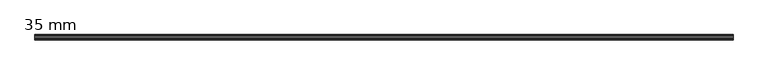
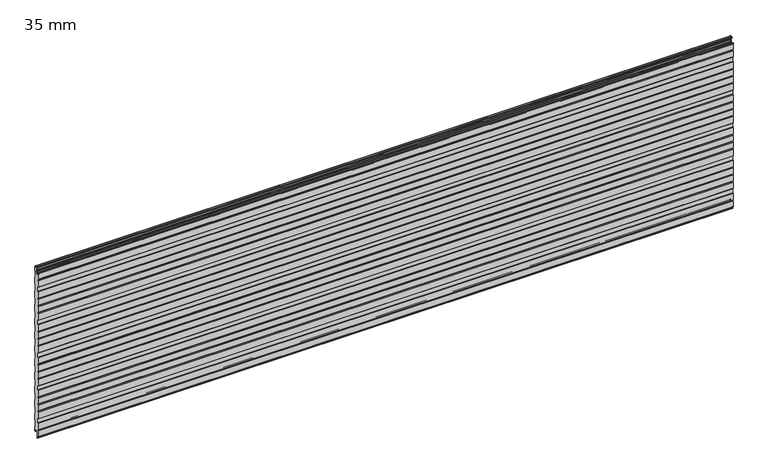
"""IFC4 building model written with IfcOpenShell, lengths in millimetres: plate geometry, HIANSA PANEL - H20.F02.002-PANELES DE FACHADA HORIZONTAL - PANEL PERFILADO - Panel de Muro Cortina : 35 mm."""

from ifc_helpers import new_model, si_unit, frame, origin, place, context, project, spatial, polyline, circle_curve, source, transform, mapped, element, save
from ifc_brep_helpers import plane_surface, cylinder_surface, revolved_surface, advanced_brep


def plate_35_mm_6cc62642(model_context):
    return source(origin(), model_context, "Body", "AdvancedBrep", [
        advanced_brep(
        [(-2200.0, -33.8752798, 1088.9050598), (-2200.0, -32.5170803, 1089.9655099), (-2200.0, -29.8776596, 1089.9655099), (-2200.0, -29.8776596, 1080.8), (-2200.0, -28.3776596, 1079.3), (-2200.0, -24.1276596, 1079.3), (-2200.0, -22.6276596, 1080.8), (-2200.0, -22.6276596, 1082.4013031), (-2200.0, -21.9880243, 1083.6300312), (-2200.0, -15.9305067, 1087.8715506), (-2200.0, -15.0776596, 1089.5098547), (-2200.0, -15.0776596, 1098.6062275), (-2200.0, -14.3889845, 1099.7990478), (-2200.0, -14.3889845, 1100.7990478), (-2200.0, -15.0776596, 1101.9918681), (-2200.0, -15.0776596, 1111.0896684), (-2200.0, -15.9305067, 1112.7279725), (-2200.0, -21.9880243, 1116.969492), (-2200.0, -22.6276596, 1118.19822), (-2200.0, -22.6276596, 1121.5805697), (-2200.0, -21.1276596, 1123.0805697), (-2200.0, -7.7494039, 1123.0810465), (-2200.0, -6.7486887, 1122.0803313), (-2200.0, -6.7486887, 1115.9337883), (-2200.0, -4.7472517, 1113.9323514), (-2200.0, -1.4941037, 1113.9323514), (-2200.0, -0.5, 1112.9382477), (-2200.0, -0.5, 1088.0627766), (-2200.0, -1.5005169, 1085.0504228), (-2200.0, -1.5005169, 1044.8881451), (-2200.0, -0.5, 1041.8865945), (-2200.0, -0.5, 997.0519734), (-2200.0, -1.5005169, 994.0504228), (-2200.0, -1.5005169, 953.8881451), (-2200.0, -0.5, 950.8865945), (-2200.0, -0.5, 906.0519734), (-2200.0, -1.5005169, 903.0504228), (-2200.0, -1.5005169, 862.8881451), (-2200.0, -0.5, 859.8865945), (-2200.0, -0.5, 815.0519734), (-2200.0, -1.5005169, 812.0504228), (-2200.0, -1.5005169, 771.8881451), (-2200.0, -0.5, 768.8865945), (-2200.0, -0.5, 724.0519734), (-2200.0, -1.5005169, 721.0504228), (-2200.0, -1.5005169, 680.8881451), (-2200.0, -0.5, 677.8865945), (-2200.0, -0.5, 633.0519734), (-2200.0, -1.5005169, 630.0504228), (-2200.0, -1.5005169, 589.8881451), (-2200.0, -0.5, 586.8865945), (-2200.0, -0.5, 542.0519734), (-2200.0, -1.5005169, 539.0504228), (-2200.0, -1.5005169, 498.8881451), (-2200.0, -0.5, 495.8865945), (-2200.0, -0.5, 451.0519734), (-2200.0, -1.5005169, 448.0504228), (-2200.0, -1.5005169, 407.8881451), (-2200.0, -0.5, 404.8865945), (-2200.0, -0.5, 360.0519734), (-2200.0, -1.5005169, 357.0504228), (-2200.0, -1.5005169, 316.8881451), (-2200.0, -0.5, 313.8865945), (-2200.0, -0.5, 269.0519734), (-2200.0, -1.5005169, 266.0504228), (-2200.0, -1.5005169, 225.8881451), (-2200.0, -0.5, 222.8865945), (-2200.0, -0.5, 178.0519734), (-2200.0, -1.5005169, 175.0504228), (-2200.0, -1.5005169, 134.8881451), (-2200.0, -0.5, 131.8865945), (-2200.0, -0.5, 87.0519734), (-2200.0, -1.5005169, 84.0504228), (-2200.0, -1.5005169, 43.8881451), (-2200.0, -0.5, 40.8962672), (-2200.0, -0.5, 15.9680961), (-2200.0, -1.5000258, 14.9680403), (-2200.0, -4.4999967, 14.9677262), (-2200.0, -5.5000043, 15.9677319), (-2200.0, -5.5004096, 23.5818123), (-2200.0, -7.5396439, 25.6210465), (-2200.0, -21.3470846, 25.6210465), (-2200.0, -23.8839497, 23.0841814), (-2200.0, -23.8839497, -19.2), (-2200.0, -28.6276596, -19.2), (-2200.0, -28.6276596, -10.5344901), (-2200.0, -30.1276596, -9.0344901), (-2200.0, -32.5178943, -9.0344901), (-2200.0, -33.8750825, -7.9748295), (-2200.0, -34.5, -5.4751593), (-2200.0, -34.5, 33.6239573), (-2200.0, -33.4846118, 37.6855101), (-2200.0, -34.5, 41.7470629), (-2200.0, -34.5, 84.8265935), (-2200.0, -33.5, 87.8265935), (-2200.0, -33.5, 113.1008712), (-2200.0, -34.5, 116.1008712), (-2200.0, -34.5, 159.1804017), (-2200.0, -33.4846118, 163.2419545), (-2200.0, -34.5, 167.3035073), (-2200.0, -34.5, 206.4026239), (-2200.0, -33.4846118, 210.4641767), (-2200.0, -34.5, 214.5257295), (-2200.0, -34.5, 253.6248461), (-2200.0, -33.4846118, 257.6863989), (-2200.0, -34.5, 261.7479517), (-2200.0, -34.5, 304.8274823), (-2200.0, -33.5, 307.8274823), (-2200.0, -33.5, 333.10176), (-2200.0, -34.5, 336.10176), (-2200.0, -34.5, 379.1812905), (-2200.0, -33.4846118, 383.2428433), (-2200.0, -34.5, 387.3043961), (-2200.0, -34.5, 426.4035127), (-2200.0, -33.4846118, 430.4650655), (-2200.0, -34.5, 434.5266183), (-2200.0, -34.5, 473.6257349), (-2200.0, -33.4846118, 477.6872877), (-2200.0, -34.5, 481.7488405), (-2200.0, -34.5, 524.8283711), (-2200.0, -33.5, 527.8283711), (-2200.0, -33.5, 553.1026488), (-2200.0, -34.5, 556.1026488), (-2200.0, -34.5, 599.1821793), (-2200.0, -33.4846118, 603.2437321), (-2200.0, -34.5, 607.3052849), (-2200.0, -34.5, 646.4044015), (-2200.0, -33.4846118, 650.4659543), (-2200.0, -34.5, 654.5275071), (-2200.0, -34.5, 693.6266237), (-2200.0, -33.4846118, 697.6881765), (-2200.0, -34.5, 701.7497293), (-2200.0, -34.5, 744.8292599), (-2200.0, -33.5, 747.8292599), (-2200.0, -33.5, 773.1035376), (-2200.0, -34.5, 776.1035376), (-2200.0, -34.5, 819.1830681), (-2200.0, -33.4846118, 823.2446209), (-2200.0, -34.5, 827.3061737), (-2200.0, -34.5, 866.4052903), (-2200.0, -33.4846118, 870.4668431), (-2200.0, -34.5, 874.5283959), (-2200.0, -34.5, 913.6275125), (-2200.0, -33.4846118, 917.6890653), (-2200.0, -34.5, 921.7506181), (-2200.0, -34.5, 964.8301487), (-2200.0, -33.5, 967.8301487), (-2200.0, -33.5, 993.1044264), (-2200.0, -34.5, 996.1044264), (-2200.0, -34.5, 1039.1839569), (-2200.0, -33.4846118, 1043.2455097), (-2200.0, -34.5, 1047.3070625), (-2200.0, -34.5, 1086.4061791), (2200.0, -33.8752798, 1088.9050598), (2200.0, -34.5, 1086.4061791), (2200.0, -34.5, 1047.3070625), (2200.0, -33.4846118, 1043.2455097), (2200.0, -34.5, 1039.1839569), (2200.0, -34.5, 996.1044264), (2200.0, -33.5, 993.1044264), (2200.0, -33.5, 967.8301487), (2200.0, -34.5, 964.8301487), (2200.0, -34.5, 921.7506181), (2200.0, -33.4846118, 917.6890653), (2200.0, -34.5, 913.6275125), (2200.0, -34.5, 874.5283959), (2200.0, -33.4846118, 870.4668431), (2200.0, -34.5, 866.4052903), (2200.0, -34.5, 827.3061737), (2200.0, -33.4846118, 823.2446209), (2200.0, -34.5, 819.1830681), (2200.0, -34.5, 776.1035376), (2200.0, -33.5, 773.1035376), (2200.0, -33.5, 747.8292599), (2200.0, -34.5, 744.8292599), (2200.0, -34.5, 701.7497293), (2200.0, -33.4846118, 697.6881765), (2200.0, -34.5, 693.6266237), (2200.0, -34.5, 654.5275071), (2200.0, -33.4846118, 650.4659543), (2200.0, -34.5, 646.4044015), (2200.0, -34.5, 607.3052849), (2200.0, -33.4846118, 603.2437321), (2200.0, -34.5, 599.1821793), (2200.0, -34.5, 556.1026488), (2200.0, -33.5, 553.1026488), (2200.0, -33.5, 527.8283711), (2200.0, -34.5, 524.8283711), (2200.0, -34.5, 481.7488405), (2200.0, -33.4846118, 477.6872877), (2200.0, -34.5, 473.6257349), (2200.0, -34.5, 434.5266183), (2200.0, -33.4846118, 430.4650655), (2200.0, -34.5, 426.4035127), (2200.0, -34.5, 387.3043961), (2200.0, -33.4846118, 383.2428433), (2200.0, -34.5, 379.1812905), (2200.0, -34.5, 336.10176), (2200.0, -33.5, 333.10176), (2200.0, -33.5, 307.8274823), (2200.0, -34.5, 304.8274823), (2200.0, -34.5, 261.7479517), (2200.0, -33.4846118, 257.6863989), (2200.0, -34.5, 253.6248461), (2200.0, -34.5, 214.5257295), (2200.0, -33.4846118, 210.4641767), (2200.0, -34.5, 206.4026239), (2200.0, -34.5, 167.3035073), (2200.0, -33.4846118, 163.2419545), (2200.0, -34.5, 159.1804017), (2200.0, -34.5, 116.1008712), (2200.0, -33.5, 113.1008712), (2200.0, -33.5, 87.8265935), (2200.0, -34.5, 84.8265935), (2200.0, -34.5, 41.7470629), (2200.0, -33.4846118, 37.6855101), (2200.0, -34.5, 33.6239573), (2200.0, -34.5, -5.4751593), (2200.0, -33.8750825, -7.9748295), (2200.0, -32.5178943, -9.0344901), (2200.0, -30.1276596, -9.0344901), (2200.0, -28.6276596, -10.5344901), (2200.0, -28.6276596, -19.2), (2200.0, -23.8839497, -19.2), (2200.0, -23.8839497, 23.0841814), (2200.0, -21.3470846, 25.6210465), (2200.0, -7.5396439, 25.6210465), (2200.0, -5.5004096, 23.5818123), (2200.0, -5.5004096, 15.9677319), (2200.0, -4.4999967, 14.9677262), (2200.0, -1.5000258, 14.9680403), (2200.0, -0.5, 15.9680961), (2200.0, -0.5, 40.8962672), (2200.0, -1.5005169, 43.8881451), (2200.0, -1.5005169, 84.0504228), (2200.0, -0.5, 87.0519734), (2200.0, -0.5, 131.8865945), (2200.0, -1.5005169, 134.8881451), (2200.0, -1.5005169, 175.0504228), (2200.0, -0.5, 178.0519734), (2200.0, -0.5, 222.8865945), (2200.0, -1.5005169, 225.8881451), (2200.0, -1.5005169, 266.0504228), (2200.0, -0.5, 269.0519734), (2200.0, -0.5, 313.8865945), (2200.0, -1.5005169, 316.8881451), (2200.0, -1.5005169, 357.0504228), (2200.0, -0.5, 360.0519734), (2200.0, -0.5, 404.8865945), (2200.0, -1.5005169, 407.8881451), (2200.0, -1.5005169, 448.0504228), (2200.0, -0.5, 451.0519734), (2200.0, -0.5, 495.8865945), (2200.0, -1.5005169, 498.8881451), (2200.0, -1.5005169, 539.0504228), (2200.0, -0.5, 542.0519734), (2200.0, -0.5, 586.8865945), (2200.0, -1.5005169, 589.8881451), (2200.0, -1.5005169, 630.0504228), (2200.0, -0.5, 633.0519734), (2200.0, -0.5, 677.8865945), (2200.0, -1.5005169, 680.8881451), (2200.0, -1.5005169, 721.0504228), (2200.0, -0.5, 724.0519734), (2200.0, -0.5, 768.8865945), (2200.0, -1.5005169, 771.8881451), (2200.0, -1.5005169, 812.0504228), (2200.0, -0.5, 815.0519734), (2200.0, -0.5, 859.8865945), (2200.0, -1.5005169, 862.8881451), (2200.0, -1.5005169, 903.0504228), (2200.0, -0.5, 906.0519734), (2200.0, -0.5, 950.8865945), (2200.0, -1.5005169, 953.8881451), (2200.0, -1.5005169, 994.0504228), (2200.0, -0.5, 997.0519734), (2200.0, -0.5, 1041.8865945), (2200.0, -1.5005169, 1044.8881451), (2200.0, -1.5005169, 1085.0504228), (2200.0, -0.5, 1088.0627766), (2200.0, -0.5, 1112.9382477), (2200.0, -1.4941037, 1113.9323514), (2200.0, -4.7472517, 1113.9323514), (2200.0, -6.7486887, 1115.9337883), (2200.0, -6.7486887, 1122.0803313), (2200.0, -7.7494039, 1123.0810465), (2200.0, -21.1276596, 1123.0810465), (2200.0, -22.6276596, 1121.5805697), (2200.0, -22.6276596, 1118.19822), (2200.0, -21.9880243, 1116.969492), (2200.0, -15.9305067, 1112.7279725), (2200.0, -15.0776596, 1111.0896684), (2200.0, -15.0776596, 1101.9918681), (2200.0, -14.3889845, 1100.7990478), (2200.0, -14.3889845, 1099.7990478), (2200.0, -15.0776596, 1098.6062275), (2200.0, -15.0776596, 1089.5098547), (2200.0, -15.9305067, 1087.8715506), (2200.0, -21.9880243, 1083.6300312), (2200.0, -22.6276596, 1082.4013031), (2200.0, -22.6276596, 1080.8), (2200.0, -24.1276596, 1079.3), (2200.0, -28.3776596, 1079.3), (2200.0, -29.8776596, 1080.8), (2200.0, -29.8776596, 1089.9655099), (2200.0, -32.5170803, 1089.9655099)],
        [
            (0, 1, circle_curve(frame((-2200.0, -32.5170803, 1088.5655099), z_axis=(-1.0, 0.0, 0.0), x_axis=(0.0, 0.0, 1.0)), 1.4)),
            (1, 2),
            (2, 3),
            (3, 4, circle_curve(frame((-2200.0, -28.3776596, 1080.8), z_axis=(1.0, 0.0, 0.0), x_axis=(0.0, 0.0, 1.0)), 1.5)),
            (4, 5),
            (5, 6, circle_curve(frame((-2200.0, -24.1276596, 1080.8), z_axis=(1.0, 0.0, 0.0), x_axis=(0.0, 0.0, 1.0)), 1.5)),
            (6, 7),
            (7, 8, circle_curve(frame((-2200.0, -21.1276596, 1082.4013031), z_axis=(-1.0, 0.0, 0.0), x_axis=(0.0, 0.0, 1.0)), 1.5)),
            (8, 9),
            (9, 10, circle_curve(frame((-2200.0, -17.0776596, 1089.5098547), z_axis=(1.0, 0.0, 0.0), x_axis=(0.0, 0.0, 1.0)), 2.0)),
            (10, 11),
            (11, 12),
            (12, 13, circle_curve(frame((-2200.0, -15.2550099, 1100.2990478), z_axis=(1.0, 0.0, 0.0), x_axis=(0.0, 0.0, 1.0)), 1.0)),
            (13, 14),
            (14, 15),
            (15, 16, circle_curve(frame((-2200.0, -17.0776596, 1111.0896684), z_axis=(1.0, 0.0, 0.0), x_axis=(0.0, 0.0, 1.0)), 2.0)),
            (16, 17),
            (17, 18, circle_curve(frame((-2200.0, -21.1276596, 1118.19822), z_axis=(-1.0, 0.0, 0.0), x_axis=(0.0, 0.0, 1.0)), 1.5)),
            (18, 19),
            (19, 20, circle_curve(frame((-2200.0, -21.1276596, 1121.5805697), z_axis=(-1.0, 0.0, 0.0), x_axis=(0.0, 0.0, 1.0)), 1.5)),
            (20, 21),
            (21, 22, circle_curve(frame((-2200.0, -7.7494039, 1122.0803313), z_axis=(-1.0, 0.0, 0.0), x_axis=(0.0, 0.0, 1.0)), 1.0007153)),
            (22, 23),
            (23, 24, circle_curve(frame((-2200.0, -4.7472517, 1115.9337883), z_axis=(1.0, 0.0, 0.0), x_axis=(0.0, 0.0, 1.0)), 2.0014369)),
            (24, 25),
            (25, 26, circle_curve(frame((-2200.0, -1.4941037, 1112.9382477), z_axis=(-1.0, 0.0, 0.0), x_axis=(0.0, 0.0, 1.0)), 0.9941037)),
            (26, 27),
            (27, 28),
            (28, 29),
            (29, 30),
            (30, 31),
            (31, 32),
            (32, 33),
            (33, 34),
            (34, 35),
            (35, 36),
            (36, 37),
            (37, 38),
            (38, 39),
            (39, 40),
            (40, 41),
            (41, 42),
            (42, 43),
            (43, 44),
            (44, 45),
            (45, 46),
            (46, 47),
            (47, 48),
            (48, 49),
            (49, 50),
            (50, 51),
            (51, 52),
            (52, 53),
            (53, 54),
            (54, 55),
            (55, 56),
            (56, 57),
            (57, 58),
            (58, 59),
            (59, 60),
            (60, 61),
            (61, 62),
            (62, 63),
            (63, 64),
            (64, 65),
            (65, 66),
            (66, 67),
            (67, 68),
            (68, 69),
            (69, 70),
            (70, 71),
            (71, 72),
            (72, 73),
            (73, 74),
            (74, 75),
            (75, 76, circle_curve(frame((-2200.0, -1.5000558, 15.9680961), z_axis=(-1.0, 0.0, 0.0), x_axis=(0.0, 0.0, 1.0)), 1.0000558)),
            (76, 77),
            (77, 78, circle_curve(frame((-2200.0, -4.4999986, 15.9677319), z_axis=(-1.0, 0.0, 0.0), x_axis=(0.0, 0.0, 1.0)), 1.0000057)),
            (78, 79),
            (79, 80, circle_curve(frame((-2200.0, -7.5396439, 23.5818123), z_axis=(1.0, 0.0, 0.0), x_axis=(0.0, 0.0, 1.0)), 2.0392343)),
            (80, 81),
            (81, 82, circle_curve(frame((-2200.0, -21.3470846, 23.0841814), z_axis=(1.0, 0.0, 0.0), x_axis=(0.0, 0.0, 1.0)), 2.5368651)),
            (82, 83),
            (83, 84),
            (84, 85),
            (85, 86, circle_curve(frame((-2200.0, -30.1276596, -10.5344901), z_axis=(1.0, 0.0, 0.0), x_axis=(0.0, 0.0, 1.0)), 1.5)),
            (86, 87),
            (87, 88, circle_curve(frame((-2200.0, -32.5178943, -7.6355325), z_axis=(-1.0, 0.0, 0.0), x_axis=(0.0, 0.0, 1.0)), 1.3989576)),
            (88, 89),
            (89, 90),
            (90, 91),
            (91, 92),
            (92, 93),
            (93, 94),
            (94, 95),
            (95, 96),
            (96, 97),
            (97, 98),
            (98, 99),
            (99, 100),
            (100, 101),
            (101, 102),
            (102, 103),
            (103, 104),
            (104, 105),
            (105, 106),
            (106, 107),
            (107, 108),
            (108, 109),
            (109, 110),
            (110, 111),
            (111, 112),
            (112, 113),
            (113, 114),
            (114, 115),
            (115, 116),
            (116, 117),
            (117, 118),
            (118, 119),
            (119, 120),
            (120, 121),
            (121, 122),
            (122, 123),
            (123, 124),
            (124, 125),
            (125, 126),
            (126, 127),
            (127, 128),
            (128, 129),
            (129, 130),
            (130, 131),
            (131, 132),
            (132, 133),
            (133, 134),
            (134, 135),
            (135, 136),
            (136, 137),
            (137, 138),
            (138, 139),
            (139, 140),
            (140, 141),
            (141, 142),
            (142, 143),
            (143, 144),
            (144, 145),
            (145, 146),
            (146, 147),
            (147, 148),
            (148, 149),
            (149, 150),
            (150, 151),
            (151, 152),
            (152, 0),
            (153, 154),
            (154, 155),
            (155, 156),
            (156, 157),
            (157, 158),
            (158, 159),
            (159, 160),
            (160, 161),
            (161, 162),
            (162, 163),
            (163, 164),
            (164, 165),
            (165, 166),
            (166, 167),
            (167, 168),
            (168, 169),
            (169, 170),
            (170, 171),
            (171, 172),
            (172, 173),
            (173, 174),
            (174, 175),
            (175, 176),
            (176, 177),
            (177, 178),
            (178, 179),
            (179, 180),
            (180, 181),
            (181, 182),
            (182, 183),
            (183, 184),
            (184, 185),
            (185, 186),
            (186, 187),
            (187, 188),
            (188, 189),
            (189, 190),
            (190, 191),
            (191, 192),
            (192, 193),
            (193, 194),
            (194, 195),
            (195, 196),
            (196, 197),
            (197, 198),
            (198, 199),
            (199, 200),
            (200, 201),
            (201, 202),
            (202, 203),
            (203, 204),
            (204, 205),
            (205, 206),
            (206, 207),
            (207, 208),
            (208, 209),
            (209, 210),
            (210, 211),
            (211, 212),
            (212, 213),
            (213, 214),
            (214, 215),
            (215, 216),
            (216, 217),
            (217, 218),
            (218, 219, circle_curve(frame((2200.0, -32.5178943, -7.6355325), z_axis=(1.0, 0.0, 0.0), x_axis=(0.0, 0.0, 1.0)), 1.3989576)),
            (219, 220),
            (220, 221, circle_curve(frame((2200.0, -30.1276596, -10.5344901), z_axis=(-1.0, 0.0, 0.0), x_axis=(0.0, 0.0, 1.0)), 1.5)),
            (221, 222),
            (222, 223),
            (223, 224),
            (224, 225, circle_curve(frame((2200.0, -21.3470846, 23.0841814), z_axis=(-1.0, 0.0, 0.0), x_axis=(0.0, 0.0, 1.0)), 2.5368651)),
            (225, 226),
            (226, 227, circle_curve(frame((2200.0, -7.5396439, 23.5818123), z_axis=(-1.0, 0.0, 0.0), x_axis=(0.0, 0.0, 1.0)), 2.0392343)),
            (227, 228),
            (228, 229, circle_curve(frame((2200.0, -4.4999986, 15.9677319), z_axis=(1.0, 0.0, 0.0), x_axis=(0.0, 0.0, 1.0)), 1.0000057)),
            (229, 230),
            (230, 231, circle_curve(frame((2200.0, -1.5000558, 15.9680961), z_axis=(1.0, 0.0, 0.0), x_axis=(0.0, 0.0, 1.0)), 1.0000558)),
            (231, 232),
            (232, 233),
            (233, 234),
            (234, 235),
            (235, 236),
            (236, 237),
            (237, 238),
            (238, 239),
            (239, 240),
            (240, 241),
            (241, 242),
            (242, 243),
            (243, 244),
            (244, 245),
            (245, 246),
            (246, 247),
            (247, 248),
            (248, 249),
            (249, 250),
            (250, 251),
            (251, 252),
            (252, 253),
            (253, 254),
            (254, 255),
            (255, 256),
            (256, 257),
            (257, 258),
            (258, 259),
            (259, 260),
            (260, 261),
            (261, 262),
            (262, 263),
            (263, 264),
            (264, 265),
            (265, 266),
            (266, 267),
            (267, 268),
            (268, 269),
            (269, 270),
            (270, 271),
            (271, 272),
            (272, 273),
            (273, 274),
            (274, 275),
            (275, 276),
            (276, 277),
            (277, 278),
            (278, 279),
            (279, 280),
            (280, 281, circle_curve(frame((2200.0, -1.4941037, 1112.9382477), z_axis=(1.0, 0.0, 0.0), x_axis=(0.0, 0.0, 1.0)), 0.9941037)),
            (281, 282),
            (282, 283, circle_curve(frame((2200.0, -4.7472517, 1115.9337883), z_axis=(-1.0, 0.0, 0.0), x_axis=(0.0, 0.0, 1.0)), 2.0014369)),
            (283, 284),
            (284, 285, circle_curve(frame((2200.0, -7.7494039, 1122.0803313), z_axis=(1.0, 0.0, 0.0), x_axis=(0.0, 0.0, 1.0)), 1.0007153)),
            (285, 286),
            (286, 287, circle_curve(frame((2200.0, -21.1276596, 1121.5805697), z_axis=(1.0, 0.0, 0.0), x_axis=(0.0, 0.0, 1.0)), 1.5)),
            (287, 288),
            (288, 289, circle_curve(frame((2200.0, -21.1276596, 1118.19822), z_axis=(1.0, 0.0, 0.0), x_axis=(0.0, 0.0, 1.0)), 1.5)),
            (289, 290),
            (290, 291, circle_curve(frame((2200.0, -17.0776596, 1111.0896684), z_axis=(-1.0, 0.0, 0.0), x_axis=(0.0, 0.0, 1.0)), 2.0)),
            (291, 292),
            (292, 293),
            (293, 294, circle_curve(frame((2200.0, -15.2550099, 1100.2990478), z_axis=(-1.0, 0.0, 0.0), x_axis=(0.0, 0.0, 1.0)), 1.0)),
            (294, 295),
            (295, 296),
            (296, 297, circle_curve(frame((2200.0, -17.0776596, 1089.5098547), z_axis=(-1.0, 0.0, 0.0), x_axis=(0.0, 0.0, 1.0)), 2.0)),
            (297, 298),
            (298, 299, circle_curve(frame((2200.0, -21.1276596, 1082.4013031), z_axis=(1.0, 0.0, 0.0), x_axis=(0.0, 0.0, 1.0)), 1.5)),
            (299, 300),
            (300, 301, circle_curve(frame((2200.0, -24.1276596, 1080.8), z_axis=(-1.0, 0.0, 0.0), x_axis=(0.0, 0.0, 1.0)), 1.5)),
            (301, 302),
            (302, 303, circle_curve(frame((2200.0, -28.3776596, 1080.8), z_axis=(-1.0, 0.0, 0.0), x_axis=(0.0, 0.0, 1.0)), 1.5)),
            (303, 304),
            (304, 305),
            (305, 153, circle_curve(frame((2200.0, -32.5170803, 1088.5655099), z_axis=(1.0, 0.0, 0.0), x_axis=(0.0, 0.0, 1.0)), 1.4)),
            (147, 159),
            (158, 148),
            (146, 160),
            (145, 161),
            (144, 162),
            (143, 163),
            (142, 164),
            (141, 165),
            (140, 166),
            (139, 167),
            (138, 168),
            (137, 169),
            (136, 170),
            (135, 171),
            (134, 172),
            (133, 173),
            (132, 174),
            (131, 175),
            (130, 176),
            (129, 177),
            (128, 178),
            (127, 179),
            (126, 180),
            (125, 181),
            (124, 182),
            (123, 183),
            (122, 184),
            (121, 185),
            (120, 186),
            (119, 187),
            (118, 188),
            (117, 189),
            (116, 190),
            (115, 191),
            (114, 192),
            (113, 193),
            (112, 194),
            (111, 195),
            (110, 196),
            (109, 197),
            (108, 198),
            (107, 199),
            (106, 200),
            (105, 201),
            (104, 202),
            (103, 203),
            (102, 204),
            (101, 205),
            (100, 206),
            (99, 207),
            (98, 208),
            (97, 209),
            (96, 210),
            (95, 211),
            (94, 212),
            (93, 213),
            (92, 214),
            (91, 215),
            (90, 216),
            (89, 217),
            (88, 218),
            (87, 219),
            (86, 220),
            (85, 221),
            (84, 222),
            (83, 223),
            (82, 224),
            (81, 225),
            (80, 226),
            (79, 227),
            (78, 228),
            (74, 232),
            (231, 75),
            (73, 233),
            (72, 234),
            (71, 235),
            (70, 236),
            (69, 237),
            (68, 238),
            (67, 239),
            (66, 240),
            (65, 241),
            (64, 242),
            (63, 243),
            (62, 244),
            (61, 245),
            (60, 246),
            (59, 247),
            (58, 248),
            (57, 249),
            (56, 250),
            (55, 251),
            (54, 252),
            (53, 253),
            (52, 254),
            (51, 255),
            (50, 256),
            (49, 257),
            (48, 258),
            (47, 259),
            (46, 260),
            (45, 261),
            (44, 262),
            (43, 263),
            (42, 264),
            (41, 265),
            (40, 266),
            (39, 267),
            (38, 268),
            (37, 269),
            (36, 270),
            (35, 271),
            (34, 272),
            (33, 273),
            (32, 274),
            (31, 275),
            (30, 276),
            (152, 154),
            (153, 0),
            (151, 155),
            (150, 156),
            (149, 157),
            (29, 277),
            (28, 278),
            (27, 279),
            (26, 280),
            (25, 281),
            (24, 282),
            (23, 283),
            (22, 284),
            (21, 285),
            (20, 286),
            (19, 287),
            (18, 288),
            (17, 289),
            (16, 290),
            (15, 291),
            (9, 297),
            (296, 10),
            (8, 298),
            (7, 299),
            (6, 300),
            (5, 301),
            (4, 302),
            (3, 303),
            (2, 304),
            (1, 305),
            (14, 292),
            (13, 293),
            (12, 294),
            (11, 295),
            (77, 229),
            (76, 230),
        ],
        [
            plane_surface(frame((-2200.0, 0.0, 0.0), z_axis=(-1.0, 0.0, 0.0), x_axis=(0.0, 0.0, 1.0))),
            plane_surface(frame((2200.0, 0.0, 0.0), z_axis=(1.0, 0.0, 0.0), x_axis=(0.0, 0.0, 1.0))),
            plane_surface(frame((-2200.0, -34.5, 996.1044264), z_axis=(0.0, -0.9486832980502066, -0.3162277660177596), x_axis=(1.0, 0.0, 0.0))),
            plane_surface(frame((-2200.0, -33.5, 993.1044264), z_axis=(0.0, -1.0, 0.0), x_axis=(1.0, 0.0, 0.0))),
            plane_surface(frame((-2200.0, -33.5, 967.8301487), z_axis=(0.0, -0.9486832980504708, 0.3162277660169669), x_axis=(1.0, 0.0, 0.0))),
            plane_surface(frame((-2200.0, -34.5, 964.8301487), z_axis=(0.0, -1.0, 0.0), x_axis=(1.0, 0.0, 0.0))),
            plane_surface(frame((-2200.0, -34.5, 921.7506181), z_axis=(0.0, -0.9701425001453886, -0.24253562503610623), x_axis=(1.0, 0.0, 0.0))),
            plane_surface(frame((-2200.0, -33.4846118, 917.6890653), z_axis=(0.0, -0.9701425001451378, 0.24253562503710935), x_axis=(1.0, 0.0, 0.0))),
            plane_surface(frame((-2200.0, -34.5, 913.6275125), z_axis=(0.0, -1.0, 0.0), x_axis=(1.0, 0.0, 0.0))),
            plane_surface(frame((-2200.0, -34.5, 874.5283959), z_axis=(0.0, -0.9701425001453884, -0.2425356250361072), x_axis=(1.0, 0.0, 0.0))),
            plane_surface(frame((-2200.0, -33.4846118, 870.4668431), z_axis=(0.0, -0.970142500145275, 0.24253562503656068), x_axis=(1.0, 0.0, 0.0))),
            plane_surface(frame((-2200.0, -34.5, 866.4052903), z_axis=(0.0, -1.0, 0.0), x_axis=(1.0, 0.0, 0.0))),
            plane_surface(frame((-2200.0, -34.5, 827.3061737), z_axis=(0.0, -0.9701425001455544, -0.2425356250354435), x_axis=(1.0, 0.0, 0.0))),
            plane_surface(frame((-2200.0, -33.4846118, 823.2446209), z_axis=(0.0, -0.9701425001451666, 0.24253562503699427), x_axis=(1.0, 0.0, 0.0))),
            plane_surface(frame((-2200.0, -34.5, 819.1830681), z_axis=(0.0, -1.0, 0.0), x_axis=(1.0, 0.0, 0.0))),
            plane_surface(frame((-2200.0, -34.5, 776.1035376), z_axis=(0.0, -0.9486832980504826, -0.31622776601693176), x_axis=(1.0, 0.0, 0.0))),
            plane_surface(frame((-2200.0, -33.5, 773.1035376), z_axis=(0.0, -1.0, 0.0), x_axis=(1.0, 0.0, 0.0))),
            plane_surface(frame((-2200.0, -33.5, 747.8292599), z_axis=(0.0, -0.9486832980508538, 0.316227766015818), x_axis=(1.0, 0.0, 0.0))),
            plane_surface(frame((-2200.0, -34.5, 744.8292599), z_axis=(0.0, -1.0, 0.0), x_axis=(1.0, 0.0, 0.0))),
            plane_surface(frame((-2200.0, -34.5, 701.7497293), z_axis=(0.0, -0.9701425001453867, -0.24253562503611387), x_axis=(1.0, 0.0, 0.0))),
            plane_surface(frame((-2200.0, -33.4846118, 697.6881765), z_axis=(0.0, -0.9701425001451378, 0.24253562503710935), x_axis=(1.0, 0.0, 0.0))),
            plane_surface(frame((-2200.0, -34.5, 693.6266237), z_axis=(0.0, -1.0, 0.0), x_axis=(1.0, 0.0, 0.0))),
            plane_surface(frame((-2200.0, -34.5, 654.5275071), z_axis=(0.0, -0.9701425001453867, -0.24253562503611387), x_axis=(1.0, 0.0, 0.0))),
            plane_surface(frame((-2200.0, -33.4846118, 650.4659543), z_axis=(0.0, -0.9701425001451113, 0.24253562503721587), x_axis=(1.0, 0.0, 0.0))),
            plane_surface(frame((-2200.0, -34.5, 646.4044015), z_axis=(0.0, -1.0, 0.0), x_axis=(1.0, 0.0, 0.0))),
            plane_surface(frame((-2200.0, -34.5, 607.3052849), z_axis=(0.0, -0.9701425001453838, -0.24253562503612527), x_axis=(1.0, 0.0, 0.0))),
            plane_surface(frame((-2200.0, -33.4846118, 603.2437321), z_axis=(0.0, -0.9701425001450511, 0.24253562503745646), x_axis=(1.0, 0.0, 0.0))),
            plane_surface(frame((-2200.0, -34.5, 599.1821793), z_axis=(0.0, -1.0, 0.0), x_axis=(1.0, 0.0, 0.0))),
            plane_surface(frame((-2200.0, -34.5, 556.1026488), z_axis=(0.0, -0.9486832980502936, -0.31622776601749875), x_axis=(1.0, 0.0, 0.0))),
            plane_surface(frame((-2200.0, -33.5, 553.1026488), z_axis=(0.0, -1.0, 0.0), x_axis=(1.0, 0.0, 0.0))),
            plane_surface(frame((-2200.0, -33.5, 527.8283711), z_axis=(0.0, -0.9486832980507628, 0.31622776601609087), x_axis=(1.0, 0.0, 0.0))),
            plane_surface(frame((-2200.0, -34.5, 524.8283711), z_axis=(0.0, -1.0, 0.0), x_axis=(1.0, 0.0, 0.0))),
            plane_surface(frame((-2200.0, -34.5, 481.7488405), z_axis=(0.0, -0.9701425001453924, -0.24253562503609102), x_axis=(1.0, 0.0, 0.0))),
            plane_surface(frame((-2200.0, -33.4846118, 477.6872877), z_axis=(0.0, -0.970142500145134, 0.24253562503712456), x_axis=(1.0, 0.0, 0.0))),
            plane_surface(frame((-2200.0, -34.5, 473.6257349), z_axis=(0.0, -1.0, 0.0), x_axis=(1.0, 0.0, 0.0))),
            plane_surface(frame((-2200.0, -34.5, 434.5266183), z_axis=(0.0, -0.9701425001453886, -0.24253562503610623), x_axis=(1.0, 0.0, 0.0))),
            plane_surface(frame((-2200.0, -33.4846118, 430.4650655), z_axis=(0.0, -0.9701425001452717, 0.24253562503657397), x_axis=(1.0, 0.0, 0.0))),
            plane_surface(frame((-2200.0, -34.5, 426.4035127), z_axis=(0.0, -1.0, 0.0), x_axis=(1.0, 0.0, 0.0))),
            plane_surface(frame((-2200.0, -34.5, 387.3043961), z_axis=(0.0, -0.9701425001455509, -0.24253562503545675), x_axis=(1.0, 0.0, 0.0))),
            plane_surface(frame((-2200.0, -33.4846118, 383.2428433), z_axis=(0.0, -0.9701425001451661, 0.2425356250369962), x_axis=(1.0, 0.0, 0.0))),
            plane_surface(frame((-2200.0, -34.5, 379.1812905), z_axis=(0.0, -1.0, 0.0), x_axis=(1.0, 0.0, 0.0))),
            plane_surface(frame((-2200.0, -34.5, 336.10176), z_axis=(0.0, -0.9486832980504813, -0.3162277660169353), x_axis=(1.0, 0.0, 0.0))),
            plane_surface(frame((-2200.0, -33.5, 333.10176), z_axis=(0.0, -1.0, 0.0), x_axis=(1.0, 0.0, 0.0))),
            plane_surface(frame((-2200.0, -33.5, 307.8274823), z_axis=(0.0, -0.9486832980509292, 0.3162277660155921), x_axis=(1.0, 0.0, 0.0))),
            plane_surface(frame((-2200.0, -34.5, 304.8274823), z_axis=(0.0, -1.0, 0.0), x_axis=(1.0, 0.0, 0.0))),
            plane_surface(frame((-2200.0, -34.5, 261.7479517), z_axis=(0.0, -0.9701425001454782, -0.24253562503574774), x_axis=(1.0, 0.0, 0.0))),
            plane_surface(frame((-2200.0, -33.4846118, 257.6863989), z_axis=(0.0, -0.970142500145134, 0.24253562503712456), x_axis=(1.0, 0.0, 0.0))),
            plane_surface(frame((-2200.0, -34.5, 253.6248461), z_axis=(0.0, -1.0, 0.0), x_axis=(1.0, 0.0, 0.0))),
            plane_surface(frame((-2200.0, -34.5, 214.5257295), z_axis=(0.0, -0.9701425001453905, -0.24253562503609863), x_axis=(1.0, 0.0, 0.0))),
            plane_surface(frame((-2200.0, -33.4846118, 210.4641767), z_axis=(0.0, -0.9701425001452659, 0.24253562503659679), x_axis=(1.0, 0.0, 0.0))),
            plane_surface(frame((-2200.0, -34.5, 206.4026239), z_axis=(0.0, -1.0, 0.0), x_axis=(1.0, 0.0, 0.0))),
            plane_surface(frame((-2200.0, -34.5, 167.3035073), z_axis=(0.0, -0.97014250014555, -0.24253562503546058), x_axis=(1.0, 0.0, 0.0))),
            plane_surface(frame((-2200.0, -33.4846118, 163.2419545), z_axis=(0.0, -0.9701425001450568, 0.24253562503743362), x_axis=(1.0, 0.0, 0.0))),
            plane_surface(frame((-2200.0, -34.5, 159.1804017), z_axis=(0.0, -1.0, 0.0), x_axis=(1.0, 0.0, 0.0))),
            plane_surface(frame((-2200.0, -34.5, 116.1008712), z_axis=(0.0, -0.9486832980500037, -0.3162277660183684), x_axis=(1.0, 0.0, 0.0))),
            plane_surface(frame((-2200.0, -33.5, 113.1008712), z_axis=(0.0, -1.0, 0.0), x_axis=(1.0, 0.0, 0.0))),
            plane_surface(frame((-2200.0, -33.5, 87.8265935), z_axis=(0.0, -0.9486832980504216, 0.31622776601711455), x_axis=(1.0, 0.0, 0.0))),
            plane_surface(frame((-2200.0, -34.5, 84.8265935), z_axis=(0.0, -1.0, 0.0), x_axis=(1.0, 0.0, 0.0))),
            plane_surface(frame((-2200.0, -34.5, 41.7470629), z_axis=(0.0, -0.9701425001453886, -0.24253562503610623), x_axis=(1.0, 0.0, 0.0))),
            plane_surface(frame((-2200.0, -33.4846118, 37.6855101), z_axis=(0.0, -0.9701425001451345, 0.24253562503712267), x_axis=(1.0, 0.0, 0.0))),
            plane_surface(frame((-2200.0, -34.5, 33.6239573), z_axis=(0.0, -1.0, 0.0), x_axis=(1.0, 0.0, 0.0))),
            plane_surface(frame((-2200.0, -34.5, -5.4751593), z_axis=(0.0, -0.9701425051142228, -0.2425356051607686), x_axis=(1.0, 0.0, 0.0))),
            cylinder_surface(frame((-2200.0, -32.5178943, -7.6355325), z_axis=(-1.0, 0.0, 0.0), x_axis=(0.0, 0.0, 1.0)), 1.3989576),
            plane_surface(frame((-2200.0, -32.5178943, -9.0344901), z_axis=(0.0, 0.0, -1.0), x_axis=(1.0, 0.0, 0.0))),
            revolved_surface(polyline([(2200.0, -30.1276596, -9.0344901), (-2200.0, -30.1276596, -9.0344901)]), (-2200.0, -30.1276596, -10.5344901), (1.0, 0.0, 0.0)),
            plane_surface(frame((-2200.0, -28.6276596, -10.5344901), z_axis=(0.0, -1.0, 0.0), x_axis=(1.0, 0.0, 0.0))),
            plane_surface(frame((-2200.0, -28.6276596, -19.2), z_axis=(0.0, 0.0, -1.0), x_axis=(1.0, 0.0, 0.0))),
            plane_surface(frame((-2200.0, -23.8839497, -19.2), z_axis=(0.0, 1.0, 0.0), x_axis=(1.0, 0.0, 0.0))),
            revolved_surface(polyline([(2200.0, -21.3470846, 25.6210465), (-2200.0, -21.3470846, 25.6210465)]), (-2200.0, -21.3470846, 23.0841814), (1.0, 0.0, 0.0)),
            plane_surface(frame((-2200.0, -21.3470846, 25.6210465), z_axis=(0.0, 0.0, -1.0), x_axis=(1.0, 0.0, 0.0))),
            revolved_surface(polyline([(2200.0, -7.5396439, 25.6210466), (-2200.0, -7.5396439, 25.6210466)]), (-2200.0, -7.5396439, 23.5818123), (1.0, 0.0, 0.0)),
            plane_surface(frame((-2200.0, -5.5004096, 23.5818123), z_axis=(0.0, -1.0, 0.0), x_axis=(1.0, 0.0, 0.0))),
            plane_surface(frame((-2200.0, -0.5, 15.9680961), z_axis=(0.0, 1.0, 0.0), x_axis=(1.0, 0.0, 0.0))),
            plane_surface(frame((-2200.0, -0.5, 40.8962672), z_axis=(0.0, 0.9483762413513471, 0.31714744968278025), x_axis=(1.0, 0.0, 0.0))),
            plane_surface(frame((-2200.0, -1.5005169, 43.8881451), z_axis=(0.0, 1.0, 0.0), x_axis=(1.0, 0.0, 0.0))),
            plane_surface(frame((-2200.0, -1.5005169, 84.0504228), z_axis=(0.0, 0.9486832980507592, -0.3162277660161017), x_axis=(1.0, 0.0, 0.0))),
            plane_surface(frame((-2200.0, -0.5, 87.0519734), z_axis=(0.0, 1.0, 0.0), x_axis=(1.0, 0.0, 0.0))),
            plane_surface(frame((-2200.0, -0.5, 131.8865945), z_axis=(0.0, 0.948683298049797, 0.3162277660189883), x_axis=(1.0, 0.0, 0.0))),
            plane_surface(frame((-2200.0, -1.5005169, 134.8881451), z_axis=(0.0, 1.0, 0.0), x_axis=(1.0, 0.0, 0.0))),
            plane_surface(frame((-2200.0, -1.5005169, 175.0504228), z_axis=(0.0, 0.9486832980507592, -0.3162277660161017), x_axis=(1.0, 0.0, 0.0))),
            plane_surface(frame((-2200.0, -0.5, 178.0519734), z_axis=(0.0, 1.0, 0.0), x_axis=(1.0, 0.0, 0.0))),
            plane_surface(frame((-2200.0, -0.5, 222.8865945), z_axis=(0.0, 0.948683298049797, 0.3162277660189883), x_axis=(1.0, 0.0, 0.0))),
            plane_surface(frame((-2200.0, -1.5005169, 225.8881451), z_axis=(0.0, 1.0, 0.0), x_axis=(1.0, 0.0, 0.0))),
            plane_surface(frame((-2200.0, -1.5005169, 266.0504228), z_axis=(0.0, 0.9486832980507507, -0.3162277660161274), x_axis=(1.0, 0.0, 0.0))),
            plane_surface(frame((-2200.0, -0.5, 269.0519734), z_axis=(0.0, 1.0, 0.0), x_axis=(1.0, 0.0, 0.0))),
            plane_surface(frame((-2200.0, -0.5, 313.8865945), z_axis=(0.0, 0.9486832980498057, 0.31622776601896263), x_axis=(1.0, 0.0, 0.0))),
            plane_surface(frame((-2200.0, -1.5005169, 316.8881451), z_axis=(0.0, 1.0, 0.0), x_axis=(1.0, 0.0, 0.0))),
            plane_surface(frame((-2200.0, -1.5005169, 357.0504228), z_axis=(0.0, 0.9486832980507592, -0.3162277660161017), x_axis=(1.0, 0.0, 0.0))),
            plane_surface(frame((-2200.0, -0.5, 360.0519734), z_axis=(0.0, 1.0, 0.0), x_axis=(1.0, 0.0, 0.0))),
            plane_surface(frame((-2200.0, -0.5, 404.8865945), z_axis=(0.0, 0.948683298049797, 0.3162277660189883), x_axis=(1.0, 0.0, 0.0))),
            plane_surface(frame((-2200.0, -1.5005169, 407.8881451), z_axis=(0.0, 1.0, 0.0), x_axis=(1.0, 0.0, 0.0))),
            plane_surface(frame((-2200.0, -1.5005169, 448.0504228), z_axis=(0.0, 0.9486832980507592, -0.3162277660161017), x_axis=(1.0, 0.0, 0.0))),
            plane_surface(frame((-2200.0, -0.5, 451.0519734), z_axis=(0.0, 1.0, 0.0), x_axis=(1.0, 0.0, 0.0))),
            plane_surface(frame((-2200.0, -0.5, 495.8865945), z_axis=(0.0, 0.9486832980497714, 0.3162277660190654), x_axis=(1.0, 0.0, 0.0))),
            plane_surface(frame((-2200.0, -1.5005169, 498.8881451), z_axis=(0.0, 1.0, 0.0), x_axis=(1.0, 0.0, 0.0))),
            plane_surface(frame((-2200.0, -1.5005169, 539.0504228), z_axis=(0.0, 0.9486832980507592, -0.3162277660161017), x_axis=(1.0, 0.0, 0.0))),
            plane_surface(frame((-2200.0, -0.5, 542.0519734), z_axis=(0.0, 1.0, 0.0), x_axis=(1.0, 0.0, 0.0))),
            plane_surface(frame((-2200.0, -0.5, 586.8865945), z_axis=(0.0, 0.9486832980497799, 0.3162277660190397), x_axis=(1.0, 0.0, 0.0))),
            plane_surface(frame((-2200.0, -1.5005169, 589.8881451), z_axis=(0.0, 1.0, 0.0), x_axis=(1.0, 0.0, 0.0))),
            plane_surface(frame((-2200.0, -1.5005169, 630.0504228), z_axis=(0.0, 0.9486832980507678, -0.316227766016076), x_axis=(1.0, 0.0, 0.0))),
            plane_surface(frame((-2200.0, -0.5, 633.0519734), z_axis=(0.0, 1.0, 0.0), x_axis=(1.0, 0.0, 0.0))),
            plane_surface(frame((-2200.0, -0.5, 677.8865945), z_axis=(0.0, 0.9486832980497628, 0.3162277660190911), x_axis=(1.0, 0.0, 0.0))),
            plane_surface(frame((-2200.0, -1.5005169, 680.8881451), z_axis=(0.0, 1.0, 0.0), x_axis=(1.0, 0.0, 0.0))),
            plane_surface(frame((-2200.0, -1.5005169, 721.0504228), z_axis=(0.0, 0.9486832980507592, -0.3162277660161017), x_axis=(1.0, 0.0, 0.0))),
            plane_surface(frame((-2200.0, -0.5, 724.0519734), z_axis=(0.0, 1.0, 0.0), x_axis=(1.0, 0.0, 0.0))),
            plane_surface(frame((-2200.0, -0.5, 768.8865945), z_axis=(0.0, 0.9486832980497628, 0.3162277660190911), x_axis=(1.0, 0.0, 0.0))),
            plane_surface(frame((-2200.0, -1.5005169, 771.8881451), z_axis=(0.0, 1.0, 0.0), x_axis=(1.0, 0.0, 0.0))),
            plane_surface(frame((-2200.0, -1.5005169, 812.0504228), z_axis=(0.0, 0.9486832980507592, -0.3162277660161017), x_axis=(1.0, 0.0, 0.0))),
            plane_surface(frame((-2200.0, -0.5, 815.0519734), z_axis=(0.0, 1.0, 0.0), x_axis=(1.0, 0.0, 0.0))),
            plane_surface(frame((-2200.0, -0.5, 859.8865945), z_axis=(0.0, 0.9486832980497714, 0.3162277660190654), x_axis=(1.0, 0.0, 0.0))),
            plane_surface(frame((-2200.0, -1.5005169, 862.8881451), z_axis=(0.0, 1.0, 0.0), x_axis=(1.0, 0.0, 0.0))),
            plane_surface(frame((-2200.0, -1.5005169, 903.0504228), z_axis=(0.0, 0.9486832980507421, -0.3162277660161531), x_axis=(1.0, 0.0, 0.0))),
            plane_surface(frame((-2200.0, -0.5, 906.0519734), z_axis=(0.0, 1.0, 0.0), x_axis=(1.0, 0.0, 0.0))),
            plane_surface(frame((-2200.0, -0.5, 950.8865945), z_axis=(0.0, 0.9486832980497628, 0.3162277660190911), x_axis=(1.0, 0.0, 0.0))),
            plane_surface(frame((-2200.0, -1.5005169, 953.8881451), z_axis=(0.0, 1.0, 0.0), x_axis=(1.0, 0.0, 0.0))),
            plane_surface(frame((-2200.0, -1.5005169, 994.0504228), z_axis=(0.0, 0.9486832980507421, -0.3162277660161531), x_axis=(1.0, 0.0, 0.0))),
            plane_surface(frame((-2200.0, -0.5, 997.0519734), z_axis=(0.0, 1.0, 0.0), x_axis=(1.0, 0.0, 0.0))),
            plane_surface(frame((-2200.0, -33.8752798, 1088.9050598), z_axis=(0.0, -0.9701425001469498, 0.2425356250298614), x_axis=(1.0, 0.0, 0.0))),
            plane_surface(frame((-2200.0, -34.5, 1086.4061791), z_axis=(0.0, -1.0, 0.0), x_axis=(1.0, 0.0, 0.0))),
            plane_surface(frame((-2200.0, -34.5, 1047.3070625), z_axis=(0.0, -0.9701425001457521, -0.24253562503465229), x_axis=(1.0, 0.0, 0.0))),
            plane_surface(frame((-2200.0, -33.4846118, 1043.2455097), z_axis=(0.0, -0.970142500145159, 0.24253562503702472), x_axis=(1.0, 0.0, 0.0))),
            plane_surface(frame((-2200.0, -34.5, 1039.1839569), z_axis=(0.0, -1.0, 0.0), x_axis=(1.0, 0.0, 0.0))),
            plane_surface(frame((-2200.0, -0.5, 1041.8865945), z_axis=(0.0, 0.9486832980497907, 0.3162277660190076), x_axis=(1.0, 0.0, 0.0))),
            plane_surface(frame((-2200.0, -1.5005169, 1044.8881451), z_axis=(0.0, 1.0, 0.0), x_axis=(1.0, 0.0, 0.0))),
            plane_surface(frame((-2200.0, -1.5005169, 1085.0504228), z_axis=(0.0, 0.9490230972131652, -0.31520653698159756), x_axis=(1.0, 0.0, 0.0))),
            plane_surface(frame((-2200.0, -0.5, 1088.0627766), z_axis=(0.0, 1.0, 0.0), x_axis=(1.0, 0.0, 0.0))),
            cylinder_surface(frame((-2200.0, -1.4941037, 1112.9382477), z_axis=(-1.0, 0.0, 0.0), x_axis=(0.0, 0.0, 1.0)), 0.9941037),
            plane_surface(frame((-2200.0, -1.4941037, 1113.9323514), z_axis=(0.0, 0.0, 1.0), x_axis=(1.0, 0.0, 0.0))),
            revolved_surface(polyline([(2200.0, -4.7472517, 1117.9352252), (-2200.0, -4.7472517, 1117.9352252)]), (-2200.0, -4.7472517, 1115.9337883), (1.0, 0.0, 0.0)),
            plane_surface(frame((-2200.0, -6.7486887, 1115.9337883), z_axis=(0.0, 1.0, 0.0), x_axis=(1.0, 0.0, 0.0))),
            cylinder_surface(frame((-2200.0, -7.7494039, 1122.0803313), z_axis=(-1.0, 0.0, 0.0), x_axis=(0.0, 0.0, 1.0)), 1.0007153),
            plane_surface(frame((-2200.0, -7.7494039, 1123.0810465), z_axis=(0.0, 0.0, 1.0), x_axis=(1.0, 0.0, 0.0))),
            cylinder_surface(frame((-2200.0, -21.1276596, 1121.5805697), z_axis=(-1.0, 0.0, 0.0), x_axis=(0.0, 0.0, 1.0)), 1.5),
            plane_surface(frame((-2200.0, -22.6276596, 1121.5805697), z_axis=(0.0, -1.0, 0.0), x_axis=(1.0, 0.0, 0.0))),
            cylinder_surface(frame((-2200.0, -21.1276596, 1118.19822), z_axis=(-1.0, 0.0, 0.0), x_axis=(0.0, 0.0, 1.0)), 1.5),
            plane_surface(frame((-2200.0, -21.9880243, 1116.969492), z_axis=(0.0, -0.5735764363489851, -0.8191520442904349), x_axis=(1.0, 0.0, 0.0))),
            revolved_surface(polyline([(2200.0, -17.0776596, 1113.0896684), (-2200.0, -17.0776596, 1113.0896684)]), (-2200.0, -17.0776596, 1111.0896684), (1.0, 0.0, 0.0)),
            revolved_surface(polyline([(2200.0, -17.0776596, 1091.5098547), (-2200.0, -17.0776596, 1091.5098547)]), (-2200.0, -17.0776596, 1089.5098547), (1.0, 0.0, 0.0)),
            plane_surface(frame((-2200.0, -15.9305067, 1087.8715506), z_axis=(0.0, -0.5735764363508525, 0.8191520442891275), x_axis=(1.0, 0.0, 0.0))),
            cylinder_surface(frame((-2200.0, -21.1276596, 1082.4013031), z_axis=(-1.0, 0.0, 0.0), x_axis=(0.0, 0.0, 1.0)), 1.5),
            plane_surface(frame((-2200.0, -22.6276596, 1082.4013031), z_axis=(0.0, -1.0, 0.0), x_axis=(1.0, 0.0, 0.0))),
            revolved_surface(polyline([(2200.0, -24.1276596, 1082.3), (-2200.0, -24.1276596, 1082.3)]), (-2200.0, -24.1276596, 1080.8), (1.0, 0.0, 0.0)),
            plane_surface(frame((-2200.0, -24.1276596, 1079.3), z_axis=(0.0, 0.0, 1.0), x_axis=(1.0, 0.0, 0.0))),
            revolved_surface(polyline([(2200.0, -28.3776596, 1082.3), (-2200.0, -28.3776596, 1082.3)]), (-2200.0, -28.3776596, 1080.8), (1.0, 0.0, 0.0)),
            plane_surface(frame((-2200.0, -29.8776596, 1080.8), z_axis=(0.0, 1.0, 0.0), x_axis=(1.0, 0.0, 0.0))),
            plane_surface(frame((-2200.0, -29.8776596, 1089.9655099), z_axis=(0.0, 0.0, 1.0), x_axis=(1.0, 0.0, 0.0))),
            cylinder_surface(frame((-2200.0, -32.5170803, 1088.5655099), z_axis=(-1.0, 0.0, 0.0), x_axis=(0.0, 0.0, 1.0)), 1.4),
            plane_surface(frame((-2200.0, -15.0776596, 1111.0896684), z_axis=(0.0, -1.0, 1.4732790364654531e-12), x_axis=(1.0, 0.0, 0.0))),
            plane_surface(frame((-2200.0, -15.0776596, 1101.9918681), z_axis=(0.0, -0.8660254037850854, -0.4999999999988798), x_axis=(1.0, 0.0, 0.0))),
            revolved_surface(polyline([(2200.0, -15.2550099, 1101.2990478), (-2200.0, -15.2550099, 1101.2990478)]), (-2200.0, -15.2550099, 1100.2990478), (1.0, 0.0, 0.0)),
            plane_surface(frame((-2200.0, -14.3889845, 1099.7990478), z_axis=(0.0, -0.8660254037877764, 0.4999999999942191), x_axis=(1.0, 0.0, 0.0))),
            plane_surface(frame((-2200.0, -15.0776596, 1098.6062275), z_axis=(0.0, -1.0, 1.2170437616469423e-12), x_axis=(1.0, 0.0, 0.0))),
            cylinder_surface(frame((-2200.0, -4.4999986, 15.9677319), z_axis=(-1.0, 0.0, 0.0), x_axis=(0.0, 0.0, 1.0)), 1.0000057),
            plane_surface(frame((-2200.0, -4.4999967, 14.9677262), z_axis=(0.0, 0.00010468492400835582, -0.9999999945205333), x_axis=(1.0, 0.0, 0.0))),
            cylinder_surface(frame((-2200.0, -1.5000558, 15.9680961), z_axis=(-1.0, 0.0, 0.0), x_axis=(0.0, 0.0, 1.0)), 1.0000558),
        ],
        [
            (0, [[1, 2, 3, 4, 5, 6, 7, 8, 9, 10, 11, 12, 13, 14, 15, 16, 17, 18, 19, 20, 21, 22, 23, 24, 25, 26, 27, 28, 29, 30, 31, 32, 33, 34, 35, 36, 37, 38, 39, 40, 41, 42, 43, 44, 45, 46, 47, 48, 49, 50, 51, 52, 53, 54, 55, 56, 57, 58, 59, 60, 61, 62, 63, 64, 65, 66, 67, 68, 69, 70, 71, 72, 73, 74, 75, 76, 77, 78, 79, 80, 81, 82, 83, 84, 85, 86, 87, 88, 89, 90, 91, 92, 93, 94, 95, 96, 97, 98, 99, 100, 101, 102, 103, 104, 105, 106, 107, 108, 109, 110, 111, 112, 113, 114, 115, 116, 117, 118, 119, 120, 121, 122, 123, 124, 125, 126, 127, 128, 129, 130, 131, 132, 133, 134, 135, 136, 137, 138, 139, 140, 141, 142, 143, 144, 145, 146, 147, 148, 149, 150, 151, 152, 153]]),
            (1, [[154, 155, 156, 157, 158, 159, 160, 161, 162, 163, 164, 165, 166, 167, 168, 169, 170, 171, 172, 173, 174, 175, 176, 177, 178, 179, 180, 181, 182, 183, 184, 185, 186, 187, 188, 189, 190, 191, 192, 193, 194, 195, 196, 197, 198, 199, 200, 201, 202, 203, 204, 205, 206, 207, 208, 209, 210, 211, 212, 213, 214, 215, 216, 217, 218, 219, 220, 221, 222, 223, 224, 225, 226, 227, 228, 229, 230, 231, 232, 233, 234, 235, 236, 237, 238, 239, 240, 241, 242, 243, 244, 245, 246, 247, 248, 249, 250, 251, 252, 253, 254, 255, 256, 257, 258, 259, 260, 261, 262, 263, 264, 265, 266, 267, 268, 269, 270, 271, 272, 273, 274, 275, 276, 277, 278, 279, 280, 281, 282, 283, 284, 285, 286, 287, 288, 289, 290, 291, 292, 293, 294, 295, 296, 297, 298, 299, 300, 301, 302, 303, 304, 305, 306]]),
            (2, [[307, -159, 308, -148]]),
            (3, [[309, -160, -307, -147]]),
            (4, [[310, -161, -309, -146]]),
            (5, [[311, -162, -310, -145]]),
            (6, [[312, -163, -311, -144]]),
            (7, [[313, -164, -312, -143]]),
            (8, [[314, -165, -313, -142]]),
            (9, [[315, -166, -314, -141]]),
            (10, [[316, -167, -315, -140]]),
            (11, [[317, -168, -316, -139]]),
            (12, [[318, -169, -317, -138]]),
            (13, [[319, -170, -318, -137]]),
            (14, [[320, -171, -319, -136]]),
            (15, [[321, -172, -320, -135]]),
            (16, [[322, -173, -321, -134]]),
            (17, [[323, -174, -322, -133]]),
            (18, [[324, -175, -323, -132]]),
            (19, [[325, -176, -324, -131]]),
            (20, [[326, -177, -325, -130]]),
            (21, [[327, -178, -326, -129]]),
            (22, [[328, -179, -327, -128]]),
            (23, [[329, -180, -328, -127]]),
            (24, [[330, -181, -329, -126]]),
            (25, [[331, -182, -330, -125]]),
            (26, [[332, -183, -331, -124]]),
            (27, [[333, -184, -332, -123]]),
            (28, [[334, -185, -333, -122]]),
            (29, [[335, -186, -334, -121]]),
            (30, [[336, -187, -335, -120]]),
            (31, [[337, -188, -336, -119]]),
            (32, [[338, -189, -337, -118]]),
            (33, [[339, -190, -338, -117]]),
            (34, [[340, -191, -339, -116]]),
            (35, [[341, -192, -340, -115]]),
            (36, [[342, -193, -341, -114]]),
            (37, [[343, -194, -342, -113]]),
            (38, [[344, -195, -343, -112]]),
            (39, [[345, -196, -344, -111]]),
            (40, [[346, -197, -345, -110]]),
            (41, [[347, -198, -346, -109]]),
            (42, [[348, -199, -347, -108]]),
            (43, [[349, -200, -348, -107]]),
            (44, [[350, -201, -349, -106]]),
            (45, [[351, -202, -350, -105]]),
            (46, [[352, -203, -351, -104]]),
            (47, [[353, -204, -352, -103]]),
            (48, [[354, -205, -353, -102]]),
            (49, [[355, -206, -354, -101]]),
            (50, [[356, -207, -355, -100]]),
            (51, [[357, -208, -356, -99]]),
            (52, [[358, -209, -357, -98]]),
            (53, [[359, -210, -358, -97]]),
            (54, [[360, -211, -359, -96]]),
            (55, [[361, -212, -360, -95]]),
            (56, [[362, -213, -361, -94]]),
            (57, [[363, -214, -362, -93]]),
            (58, [[364, -215, -363, -92]]),
            (59, [[365, -216, -364, -91]]),
            (60, [[366, -217, -365, -90]]),
            (61, [[367, -218, -366, -89]]),
            (62, [[368, -219, -367, -88]]),
            (63, [[369, -220, -368, -87]]),
            (64, [[370, -221, -369, -86]]),
            (65, [[371, -222, -370, -85]]),
            (66, [[372, -223, -371, -84]]),
            (67, [[373, -224, -372, -83]]),
            (68, [[374, -225, -373, -82]]),
            (69, [[375, -226, -374, -81]]),
            (70, [[376, -227, -375, -80]]),
            (71, [[377, -228, -376, -79]]),
            (72, [[378, -232, 379, -75]]),
            (73, [[380, -233, -378, -74]]),
            (74, [[381, -234, -380, -73]]),
            (75, [[382, -235, -381, -72]]),
            (76, [[383, -236, -382, -71]]),
            (77, [[384, -237, -383, -70]]),
            (78, [[385, -238, -384, -69]]),
            (79, [[386, -239, -385, -68]]),
            (80, [[387, -240, -386, -67]]),
            (81, [[388, -241, -387, -66]]),
            (82, [[389, -242, -388, -65]]),
            (83, [[390, -243, -389, -64]]),
            (84, [[391, -244, -390, -63]]),
            (85, [[392, -245, -391, -62]]),
            (86, [[393, -246, -392, -61]]),
            (87, [[394, -247, -393, -60]]),
            (88, [[395, -248, -394, -59]]),
            (89, [[396, -249, -395, -58]]),
            (90, [[397, -250, -396, -57]]),
            (91, [[398, -251, -397, -56]]),
            (92, [[399, -252, -398, -55]]),
            (93, [[400, -253, -399, -54]]),
            (94, [[401, -254, -400, -53]]),
            (95, [[402, -255, -401, -52]]),
            (96, [[403, -256, -402, -51]]),
            (97, [[404, -257, -403, -50]]),
            (98, [[405, -258, -404, -49]]),
            (99, [[406, -259, -405, -48]]),
            (100, [[407, -260, -406, -47]]),
            (101, [[408, -261, -407, -46]]),
            (102, [[409, -262, -408, -45]]),
            (103, [[410, -263, -409, -44]]),
            (104, [[411, -264, -410, -43]]),
            (105, [[412, -265, -411, -42]]),
            (106, [[413, -266, -412, -41]]),
            (107, [[414, -267, -413, -40]]),
            (108, [[415, -268, -414, -39]]),
            (109, [[416, -269, -415, -38]]),
            (110, [[417, -270, -416, -37]]),
            (111, [[418, -271, -417, -36]]),
            (112, [[419, -272, -418, -35]]),
            (113, [[420, -273, -419, -34]]),
            (114, [[421, -274, -420, -33]]),
            (115, [[422, -275, -421, -32]]),
            (116, [[423, -276, -422, -31]]),
            (117, [[424, -154, 425, -153]]),
            (118, [[426, -155, -424, -152]]),
            (119, [[427, -156, -426, -151]]),
            (120, [[428, -157, -427, -150]]),
            (121, [[-308, -158, -428, -149]]),
            (122, [[429, -277, -423, -30]]),
            (123, [[430, -278, -429, -29]]),
            (124, [[431, -279, -430, -28]]),
            (125, [[432, -280, -431, -27]]),
            (126, [[433, -281, -432, -26]]),
            (127, [[434, -282, -433, -25]]),
            (128, [[435, -283, -434, -24]]),
            (129, [[436, -284, -435, -23]]),
            (130, [[437, -285, -436, -22]]),
            (131, [[438, -286, -437, -21]]),
            (132, [[439, -287, -438, -20]]),
            (133, [[440, -288, -439, -19]]),
            (134, [[441, -289, -440, -18]]),
            (135, [[442, -290, -441, -17]]),
            (136, [[443, -291, -442, -16]]),
            (137, [[444, -297, 445, -10]]),
            (138, [[446, -298, -444, -9]]),
            (139, [[447, -299, -446, -8]]),
            (140, [[448, -300, -447, -7]]),
            (141, [[449, -301, -448, -6]]),
            (142, [[450, -302, -449, -5]]),
            (143, [[451, -303, -450, -4]]),
            (144, [[452, -304, -451, -3]]),
            (145, [[453, -305, -452, -2]]),
            (146, [[-425, -306, -453, -1]]),
            (147, [[454, -292, -443, -15]]),
            (148, [[455, -293, -454, -14]]),
            (149, [[456, -294, -455, -13]]),
            (150, [[457, -295, -456, -12]]),
            (151, [[-445, -296, -457, -11]]),
            (152, [[458, -229, -377, -78]]),
            (153, [[459, -230, -458, -77]]),
            (154, [[-379, -231, -459, -76]]),
        ],
    ),
    ])


if __name__ == "__main__":
    model = new_model("IFC4")
    model_context = context("Model", 3, world=origin())
    ifc_project = project(units=[si_unit("LENGTHUNIT", "METRE", prefix="MILLI")], contexts=[model_context])
    site = spatial("IfcSite", under=ifc_project)
    building = spatial("IfcBuilding", under=site)
    placement = place(None, origin())
    plate_35_mm_shape = plate_35_mm_6cc62642(model_context)
    element("IfcPlate", 1, ObjectType="HIANSA PANEL - H20.F02.002-PANELES DE FACHADA HORIZONTAL - PANEL PERFILADO - Panel de Muro Cortina : 35 mm", at=placement, inside=building, context=model_context, shape_type="MappedRepresentation", body=[
        mapped(plate_35_mm_shape, transform((0.0, 0.0, 0.0), x_axis=(1.0, 0.0, 0.0), y_axis=(0.0, 1.0, 0.0), z_axis=(0.0, 0.0, 1.0))),
    ])
    save(model, "model.ifc")
